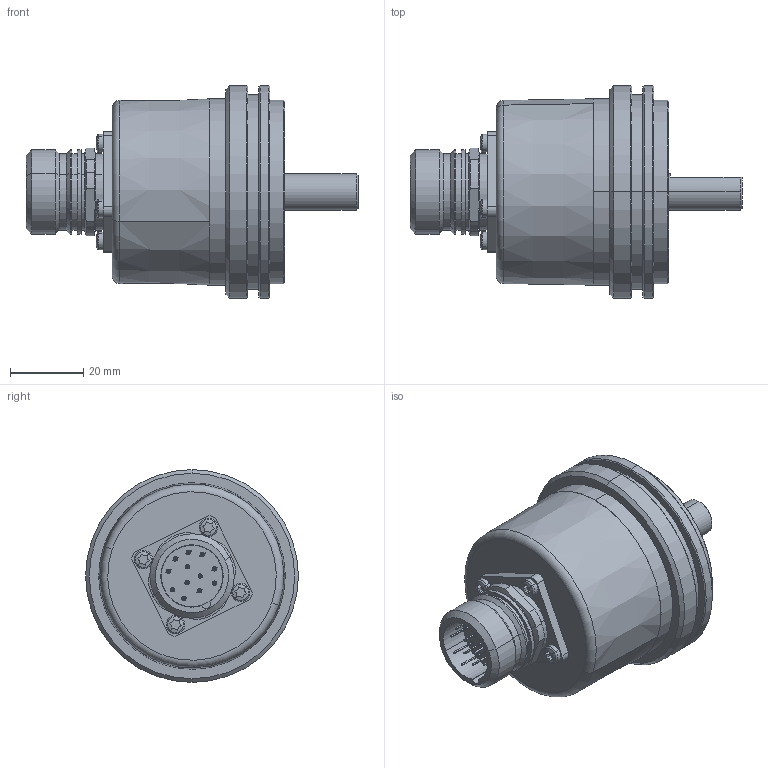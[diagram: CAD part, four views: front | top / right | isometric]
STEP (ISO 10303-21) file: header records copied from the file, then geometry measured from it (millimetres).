
FILE_DESCRIPTION (( 'STEP AP214' ), '1' );
FILE_NAME ('5000.B3X7.XXXX.STEP', '2011-01-04T09:00:32', ( 'admin' ), ( 'Fritz Kübler GmbH' ), 'SwSTEP 2.0', 'SolidWorks 2009', '' );
FILE_SCHEMA (( 'AUTOMOTIVE_DESIGN' ));
Length unit declared in the file: millimetre
Products named in the file (1): 5000.B3X7.XXXX
Bounding box: 90.5 x 58 x 58 mm (x, y, z)
Surface area: 19684 mm2 (no closed solid volume)
Topology: 0 solids, 34 shells, 292 faces, 780 edges, 506 vertices
Faces by surface type: cylinder 113, plane 88, sphere 32, torus 30, cone 29
Entity records: 12335 total; most frequent: DIRECTION 1818, CARTESIAN_POINT 1591, ORIENTED_EDGE 1331, AXIS2_PLACEMENT_3D 781, EDGE_CURVE 754, VERTEX_POINT 506, CIRCLE 488, EDGE_LOOP 344
